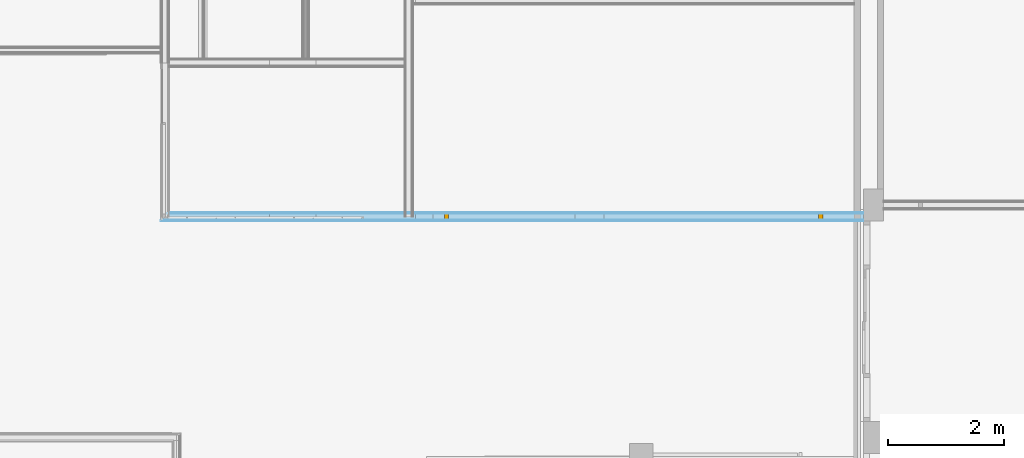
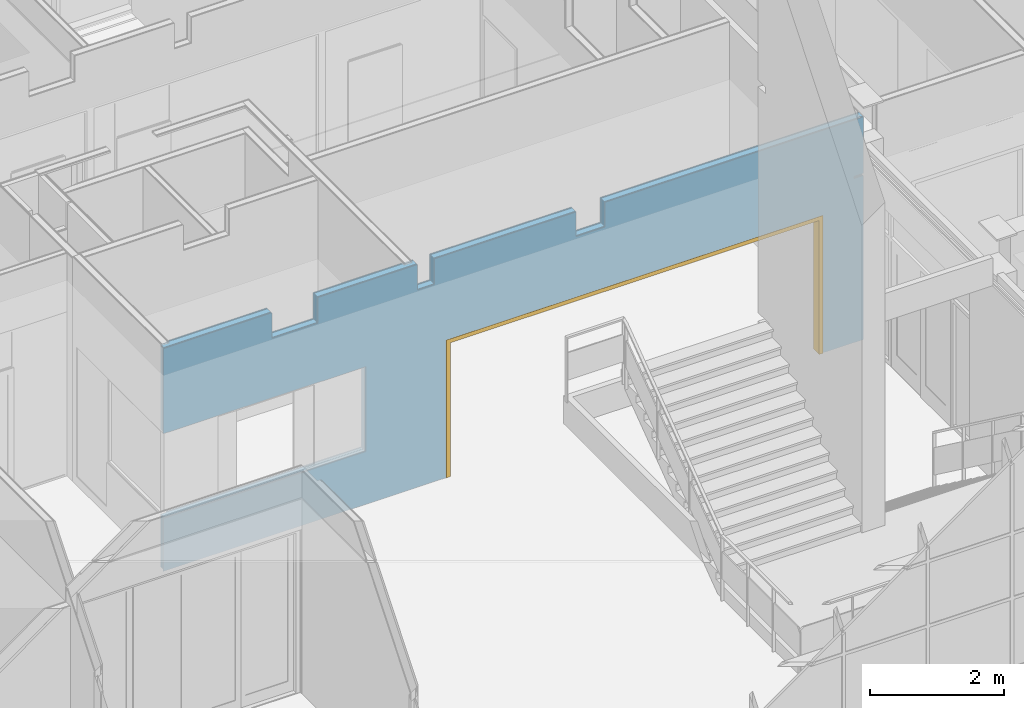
# One storey, part 34 of 109: 1 door, 2 openings, 1 element without a shape of its own, plus 5 elements that do not belong to this part.
"""IFC2X3 building model written with IfcOpenShell, lengths in millimetres."""

from ifc_helpers import new_model, entity, si_unit, converted_unit, derived_unit, money_unit, direction, frame, origin_with_axes, place, context, subcontext, project, spatial, faceted_brep, material, type_object, element, fill, aggregate, save


model = new_model("IFC2X3")

# Units and contexts
model_context = context("Model", 3, precision=0.01, world=origin_with_axes(), true_north=direction((0.0, 1.0)))
body_context = subcontext(model_context, "Body", "Model", "MODEL_VIEW")
ifc_project = project(units=[si_unit("LENGTHUNIT", "METRE", prefix="MILLI"), si_unit("AREAUNIT", "SQUARE_METRE"), si_unit("VOLUMEUNIT", "CUBIC_METRE"), converted_unit("PLANEANGLEUNIT", "DEGREE", entity("IfcPlaneAngleMeasure", 0.0174532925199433), si_unit("PLANEANGLEUNIT", "RADIAN"), dimensions=[0, 0, 0, 0, 0, 0, 0]), money_unit("EUR"), converted_unit("TIMEUNIT", "Year", entity("IfcTimeMeasure", 31557600.0), si_unit("TIMEUNIT", "SECOND"), dimensions=[0, 0, 1, 0, 0, 0, 0]), si_unit("MASSUNIT", "GRAM", prefix="KILO"), si_unit("THERMODYNAMICTEMPERATUREUNIT", "DEGREE_CELSIUS"), si_unit("LUMINOUSINTENSITYUNIT", "LUMEN"), si_unit("ENERGYUNIT", "JOULE", prefix="MEGA"), derived_unit("THERMALCONDUCTANCEUNIT", [(si_unit("POWERUNIT", "WATT"), 1), (si_unit("LENGTHUNIT", "METRE"), -1), (si_unit("THERMODYNAMICTEMPERATUREUNIT", "KELVIN"), -1)]), derived_unit("SPECIFICHEATCAPACITYUNIT", [(si_unit("ENERGYUNIT", "JOULE"), 1), (si_unit("MASSUNIT", "GRAM", prefix="KILO"), -1), (si_unit("THERMODYNAMICTEMPERATUREUNIT", "KELVIN"), -1)]), derived_unit("MASSDENSITYUNIT", [(si_unit("MASSUNIT", "GRAM", prefix="KILO"), 1), (si_unit("VOLUMEUNIT", "CUBIC_METRE"), -1)])], contexts=[model_context])

# Site, building, storey
site_placement = place(None, origin_with_axes())
site = spatial("IfcSite", under=ifc_project, at=site_placement, Name="<site naam>", CompositionType="ELEMENT")
building_placement = place(site_placement, origin_with_axes())
building = spatial("IfcBuilding", under=site, at=building_placement, Name="<Naam gebouw>", CompositionType="ELEMENT")
storey_placement = place(building_placement, origin_with_axes())
storey = spatial("IfcBuildingStorey", under=building, at=storey_placement, Name="00 Begane grond", CompositionType="ELEMENT", Elevation=0.0)

# Door
door_style = type_object("IfcDoorStyle", Name="D1 27", ConstructionType="NOTDEFINED", OperationType="NOTDEFINED", ParameterTakesPrecedence=False, Sizeable=False)
wall_placement = place(storey_placement, frame((-199.9999999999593, 11800.00000000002, 0.0), z_axis=(0.0, 0.0, 1.0), x_axis=(1.0, 0.0, 0.0)))
opening_2_placement = place(wall_placement, frame((8070.000000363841, 0.0, 0.0), z_axis=(0.0, 0.0, 1.0), x_axis=(1.0, 0.0, 0.0)))
door_placement = place(opening_2_placement, frame((-3257.0, 0.0, 0.0), z_axis=(0.0, 0.0, 1.0), x_axis=(1.0, 0.0, 0.0)))
door = element("IfcDoor", 1, at=door_placement, inside=storey, type_object=door_style, Name="22_BI-H-01_305", ObjectType="DOOR", OverallHeight=2517.0, OverallWidth=6514.0, context=body_context, shape_type="Brep", body=[
    faceted_brep([(6514.000000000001, 80.00000000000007, 0.0), (6514.000000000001, -80.00000000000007, 0.0), (6444.000000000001, -80.00000000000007, 0.0), (6444.000000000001, 80.00000000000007, 0.0), (6514.000000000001, 80.00000000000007, 2447.0), (6514.000000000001, -80.00000000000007, 2447.0), (6444.000000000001, -80.00000000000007, 2447.0), (6444.000000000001, 80.00000000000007, 2447.0)], [[[0, 1, 2, 3]], [[4, 5, 1, 0]], [[1, 5, 6, 2]], [[3, 2, 6, 7]], [[0, 3, 7, 4]], [[7, 6, 5, 4]]]),
    faceted_brep([(0.0, 80.00000000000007, 0.0), (0.0, -80.00000000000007, 0.0), (0.0, -80.00000000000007, 2447.0), (0.0, 80.00000000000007, 2447.0), (70.00000000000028, 80.00000000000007, 0.0), (70.00000000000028, -80.00000000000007, 0.0), (70.00000000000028, -80.00000000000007, 2447.0), (70.00000000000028, 80.00000000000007, 2447.0)], [[[0, 1, 2, 3]], [[4, 5, 1, 0]], [[1, 5, 6, 2]], [[3, 2, 6, 7]], [[0, 3, 7, 4]], [[7, 6, 5, 4]]]),
    faceted_brep([(6514.000000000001, 80.00000000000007, 2517.0), (6514.000000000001, -80.00000000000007, 2517.0), (6514.000000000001, -80.00000000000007, 2447.0), (6514.000000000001, 80.00000000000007, 2447.0), (0.0, 80.00000000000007, 2517.0), (0.0, -80.00000000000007, 2517.0), (0.0, -80.00000000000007, 2447.0), (70.00000000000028, -80.00000000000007, 2447.0), (6444.000000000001, -80.00000000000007, 2447.0), (6444.000000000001, 80.00000000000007, 2447.0), (70.00000000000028, 80.00000000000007, 2447.0), (0.0, 80.00000000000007, 2447.0)], [[[0, 1, 2, 3]], [[4, 5, 1, 0]], [[1, 5, 6, 7, 8, 2]], [[3, 2, 8, 9]], [[0, 3, 9, 10, 11, 4]], [[11, 6, 5, 4]], [[10, 7, 6, 11]], [[9, 8, 7, 10]]]),
])

# Wall, openings
wall_type = type_object("IfcWallType", Name="MS-01 GF 150 ECO DGS/2.100.2.A 150", PredefinedType="NOTDEFINED")
wall = element("IfcWall", 2, at=wall_placement, inside=storey, type_object=wall_type, Name="22_Binnenwand_MS-01")
opening_1_placement = place(wall_placement, frame((1717.194233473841, 0.0, 965.0), z_axis=(0.0, 0.0, 1.0), x_axis=(1.0, 0.0, 0.0)))
element("IfcOpeningElement", 3, at=opening_1_placement, cuts=wall, Name="22__305", context=body_context, shape_type="Brep", body=[
    faceted_brep([(1708.194233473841, -54.99999999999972, 0.0), (1708.194233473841, -54.99999999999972, 1552.0), (1708.194233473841, -75.99999999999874, 1552.0), (1708.194233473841, -75.99999999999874, 0.0), (1708.194233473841, 75.99999999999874, 0.0), (1708.194233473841, 75.99999999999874, 1552.0), (-1772.194233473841, -54.99999999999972, 1552.0), (-1792.194233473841, -74.99999999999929, 1552.0), (-1792.194233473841, -75.99999999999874, 1552.0), (-1792.194233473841, -75.99999999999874, 0.0), (-1772.194233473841, -54.99999999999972, 0.0), (-1792.194233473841, -74.99999999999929, 0.0), (-1641.194233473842, 75.99999999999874, 0.0), (-1641.194233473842, 75.99999999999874, 1552.0)], [[[0, 1, 2, 3]], [[1, 0, 4, 5]], [[1, 6, 7, 8, 2]], [[8, 9, 3, 2]], [[10, 0, 3, 9, 11]], [[0, 10, 12, 4]], [[5, 4, 12, 13]], [[6, 1, 5, 13]], [[7, 6, 13, 12, 10, 11]], [[11, 9, 8, 7]]]),
])
opening_2 = element("IfcOpeningElement", 4, at=opening_2_placement, cuts=wall, Name="22_BI-H-01_305", context=body_context, shape_type="Brep", body=[
    faceted_brep([(3257.0, 76.00000000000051, 2517.0), (3257.0, 75.99999999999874, 0.0), (-3257.0, 75.99999999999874, 0.0), (-3257.0, 76.00000000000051, 2517.0), (3257.0, -76.00000000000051, 2517.0), (3257.0, -76.00000000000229, 0.0), (-3257.0, -76.00000000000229, 0.0), (-3257.0, -76.00000000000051, 2517.0)], [[[0, 1, 2, 3]], [[4, 5, 1, 0]], [[5, 6, 2, 1]], [[6, 7, 3, 2]], [[7, 4, 0, 3]], [[6, 5, 4, 7]]]),
])

fill(opening_2, door)

# Building element part
ifc_material_1 = material(Name="gipsplaat")
building_element_part_1_placement = place(wall_placement, origin_with_axes())
building_element_part_1 = element("IfcBuildingElementPart", 5, at=building_element_part_1_placement, material=ifc_material_1, Name="gipsplaat", context=body_context, shape_type="Brep", body=[
    faceted_brep([(7062.499999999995, 75.00000000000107, 4070.0), (7062.499999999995, 74.99999999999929, 3620.0), (7562.499999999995, 74.99999999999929, 3620.0), (7562.499999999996, 75.00000000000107, 4070.0), (12026.79100128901, 75.00000000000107, 4070.0), (12026.79100128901, 75.00000000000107, 3040.0), (11864.99999999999, 75.00000000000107, 3040.0), (11864.99999999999, 75.00000000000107, 3000.0), (12026.79100128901, 75.00000000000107, 3000.0), (12026.79100128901, 75.00000000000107, 0.0), (11864.99987615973, 75.00000000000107, 0.0), (11864.99987615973, 75.00000000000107, 3.000000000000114), (4275.000231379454, 75.00000000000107, 3.000000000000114), (4275.000231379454, 74.99999999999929, 0.0), (62.49999999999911, 74.99999999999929, 0.0), (62.49999999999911, 74.99999999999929, 964.9999999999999), (75.00000162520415, 75.00000162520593, 964.9999999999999), (75.00000162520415, 75.00000162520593, 2517.0), (62.49999999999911, 75.00000000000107, 2517.0), (62.49999999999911, 75.00000000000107, 4070.0), (1799.999999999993, 75.00000000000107, 4070.0), (1799.999999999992, 75.00000000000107, 3600.0), (2599.999999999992, 75.00000000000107, 3600.0), (2599.999999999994, 75.00000000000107, 4070.0), (4314.999999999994, 75.00000000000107, 4070.0), (4314.999999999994, 75.00000000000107, 3600.0), (4614.999999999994, 75.00000000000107, 3600.0), (4614.999999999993, 75.00000000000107, 4070.0), (7062.499999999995, 62.5, 3620.0), (7062.499999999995, 62.50000000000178, 4070.0), (7562.499999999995, 62.5, 3620.0), (7562.499999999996, 62.5, 4070.0), (12026.79100128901, 62.50000000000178, 4070.0), (12026.79100128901, 62.50000000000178, 3040.0), (11864.99999999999, 62.5, 3040.0), (11864.99999999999, 62.5, 3000.0), (12026.79100128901, 62.50000000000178, 3000.0), (12026.79100128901, 62.5, 0.0), (11864.99987615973, 62.5, 0.0), (11864.99987615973, 62.5, 3.000000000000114), (4275.000231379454, 62.5, 3.000000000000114), (4275.000231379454, 62.5, 0.0), (62.49999999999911, 62.5, 0.0), (62.49999999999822, 62.5, 964.9999999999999), (62.49999999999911, 62.5, 2517.0), (62.49999999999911, 62.5, 4070.0), (1799.999999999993, 62.5, 4070.0), (1799.999999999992, 62.49999999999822, 3600.0), (2599.999999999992, 62.49999999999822, 3600.0), (2599.999999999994, 62.5, 4070.0), (4314.999999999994, 62.5, 4070.0), (4314.999999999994, 62.5, 3600.0), (4614.999999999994, 62.5, 3600.0), (4614.999999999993, 62.5, 4070.0)], [[[0, 1, 2, 3, 4, 5, 6, 7, 8, 9, 10, 11, 12, 13, 14, 15, 16, 17, 18, 19, 20, 21, 22, 23, 24, 25, 26, 27]], [[28, 1, 0, 29]], [[30, 2, 1, 28]], [[30, 31, 3, 2]], [[4, 3, 31, 32]], [[33, 5, 4, 32]], [[6, 5, 33, 34]], [[7, 6, 34, 35]], [[36, 8, 7, 35]], [[8, 36, 37, 9]], [[38, 10, 9, 37]], [[11, 10, 38, 39]], [[12, 11, 39, 40]], [[13, 12, 40, 41]], [[13, 41, 42, 14]], [[14, 42, 43, 15]], [[15, 43, 16]], [[17, 16, 43, 44]], [[17, 44, 18]], [[45, 19, 18, 44]], [[20, 19, 45, 46]], [[20, 46, 47, 21]], [[21, 47, 48, 22]], [[23, 22, 48, 49]], [[24, 23, 49, 50]], [[24, 50, 51, 25]], [[25, 51, 52, 26]], [[27, 26, 52, 53]], [[53, 29, 0, 27]], [[30, 28, 29, 53, 52, 51, 50, 49, 48, 47, 46, 45, 44, 43, 42, 41, 40, 39, 38, 37, 36, 35, 34, 33, 32, 31]]]),
])

building_element_part_2_placement = place(wall_placement, origin_with_axes())
building_element_part_2 = element("IfcBuildingElementPart", 6, at=building_element_part_2_placement, material=ifc_material_1, Name="gipsplaat", context=body_context, shape_type="Brep", body=[
    faceted_brep([(7062.499999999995, -49.99999999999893, 4070.0), (7062.499999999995, -49.99999999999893, 3620.0), (7562.499999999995, -49.99999999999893, 3620.0), (7562.499999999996, -49.99999999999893, 4070.0), (12026.79100128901, -49.99999999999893, 4070.0), (12026.79100128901, -49.99999999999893, 3040.0), (11864.99999999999, -49.99999999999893, 3040.0), (11864.99999999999, -49.99999999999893, 3000.0), (12026.79100128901, -49.99999999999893, 3000.0), (12026.79100128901, -49.99999999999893, 0.0), (11864.99987615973, -49.99999999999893, 0.0), (11864.99987615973, -49.99999999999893, 3.000000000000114), (4275.000231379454, -49.99999999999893, 3.000000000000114), (4275.000231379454, -50.00000000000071, 0.0), (-62.50000000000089, -50.00000000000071, 0.0), (-62.50000000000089, -50.00000000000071, 964.9999999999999), (-54.99999999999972, -49.99999999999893, 964.9999999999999), (-50.0000000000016, -49.99999999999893, 964.9999999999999), (-50.00000000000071, -49.99999999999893, 2517.0), (-54.99999999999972, -49.99999999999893, 2517.0), (-62.50000000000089, -49.99999999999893, 2517.0), (-62.50000000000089, -49.99999999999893, 4070.0), (1799.999999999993, -49.99999999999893, 4070.0), (1799.999999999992, -49.99999999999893, 3600.0), (2599.999999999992, -49.99999999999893, 3600.0), (2599.999999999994, -49.99999999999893, 4070.0), (4314.999999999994, -49.99999999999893, 4070.0), (4314.999999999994, -49.99999999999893, 3600.0), (4614.999999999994, -49.99999999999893, 3600.0), (4614.999999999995, -49.99999999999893, 4070.0), (7062.499999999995, -62.5, 3620.0), (7062.499999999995, -62.49999999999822, 4070.0), (7562.499999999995, -62.5, 3620.0), (7562.499999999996, -62.5, 4070.0), (12026.79100128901, -62.49999999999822, 4070.0), (12026.79100128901, -62.49999999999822, 3040.0), (11864.99999999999, -62.5, 3040.0), (11864.99999999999, -62.5, 3000.0), (12026.79100128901, -62.49999999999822, 3000.0), (12026.79100128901, -62.5, 0.0), (11864.99987615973, -62.5, 0.0), (11864.99987615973, -62.5, 3.000000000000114), (4275.000231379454, -62.5, 3.000000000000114), (4275.000231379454, -62.5, 0.0), (-62.50000000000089, -62.5, 0.0), (-62.50000000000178, -62.5, 964.9999999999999), (-54.99999999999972, -54.99999999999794, 964.9999999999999), (-62.50000000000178, -62.5, 2517.0), (-54.99999999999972, -54.99999999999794, 2517.0), (-62.50000000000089, -62.5, 4070.0), (1799.999999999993, -62.5, 4070.0), (1799.999999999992, -62.5, 3600.0), (2599.999999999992, -62.5, 3600.0), (2599.999999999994, -62.5, 4070.0), (4314.999999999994, -62.5, 4070.0), (4314.999999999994, -62.5, 3600.0), (4614.999999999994, -62.5, 3600.0), (4614.999999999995, -62.5, 4070.0)], [[[0, 1, 2, 3, 4, 5, 6, 7, 8, 9, 10, 11, 12, 13, 14, 15, 16, 17, 18, 19, 20, 21, 22, 23, 24, 25, 26, 27, 28, 29]], [[30, 1, 0, 31]], [[32, 2, 1, 30]], [[32, 33, 3, 2]], [[4, 3, 33, 34]], [[35, 5, 4, 34]], [[6, 5, 35, 36]], [[7, 6, 36, 37]], [[38, 8, 7, 37]], [[8, 38, 39, 9]], [[40, 10, 9, 39]], [[11, 10, 40, 41]], [[12, 11, 41, 42]], [[13, 12, 42, 43]], [[13, 43, 44, 14]], [[14, 44, 45, 15]], [[45, 46, 16, 15]], [[16, 46, 17]], [[47, 48, 18, 17, 46, 45]], [[18, 48, 19]], [[48, 47, 20, 19]], [[49, 21, 20, 47]], [[22, 21, 49, 50]], [[22, 50, 51, 23]], [[23, 51, 52, 24]], [[25, 24, 52, 53]], [[26, 25, 53, 54]], [[26, 54, 55, 27]], [[27, 55, 56, 28]], [[29, 28, 56, 57]], [[57, 31, 0, 29]], [[32, 30, 31, 57, 56, 55, 54, 53, 52, 51, 50, 49, 47, 45, 44, 43, 42, 41, 40, 39, 38, 37, 36, 35, 34, 33]]]),
])

ifc_material_2 = material(Name="isolatie_steenwol LSW")
building_element_part_3_placement = place(wall_placement, origin_with_axes())
building_element_part_3 = element("IfcBuildingElementPart", 7, at=building_element_part_3_placement, material=ifc_material_2, Name="isolatie_steenwol LSW", context=body_context, shape_type="Brep", body=[
    faceted_brep([(7062.499999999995, 50.00000000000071, 4070.0), (7062.499999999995, 50.00000000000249, 3620.0), (7562.499999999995, 50.00000000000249, 3620.0), (7562.499999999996, 50.00000000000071, 4070.0), (12026.79100128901, 50.00000000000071, 4070.0), (12026.79100128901, 50.00000000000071, 3040.0), (11864.99999999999, 50.00000000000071, 3040.0), (11864.99999999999, 50.00000000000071, 3000.0), (12026.79100128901, 50.00000000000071, 3000.0), (12026.79100128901, 50.00000000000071, 0.0), (11864.99987615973, 50.00000000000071, 0.0), (11864.99987615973, 50.00000000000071, 3.000000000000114), (4275.000231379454, 49.99999999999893, 3.000000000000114), (4275.000231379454, 50.00000000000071, 0.0), (-50.0000000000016, 50.00000000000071, 0.0), (-50.0000000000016, 50.00000000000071, 964.9999999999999), (49.99999999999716, 49.99999999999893, 964.9999999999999), (49.99999999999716, 49.99999999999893, 2517.0), (-50.0000000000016, 50.00000000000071, 2517.0), (-50.0000000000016, 50.00000000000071, 4070.0), (1799.999999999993, 50.00000000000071, 4070.0), (1799.999999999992, 49.99999999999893, 3600.0), (2599.999999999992, 49.99999999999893, 3600.0), (2599.999999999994, 50.00000000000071, 4070.0), (4314.999999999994, 50.00000000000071, 4070.0), (4314.999999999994, 49.99999999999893, 3600.0), (4614.999999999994, 49.99999999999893, 3600.0), (4614.999999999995, 50.00000000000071, 4070.0), (7062.499999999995, -49.99999999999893, 3620.0), (7062.499999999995, -49.99999999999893, 4070.0), (7562.499999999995, -49.99999999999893, 3620.0), (7562.499999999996, -49.99999999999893, 4070.0), (12026.79100128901, -49.99999999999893, 4070.0), (12026.79100128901, -49.99999999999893, 3040.0), (11864.99999999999, -49.99999999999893, 3040.0), (11864.99999999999, -49.99999999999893, 3000.0), (12026.79100128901, -49.99999999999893, 3000.0), (12026.79100128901, -49.99999999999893, 0.0), (11864.99987615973, -49.99999999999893, 0.0), (11864.99987615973, -49.99999999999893, 3.000000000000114), (4275.000231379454, -49.99999999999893, 3.000000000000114), (4275.000231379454, -50.00000000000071, 0.0), (-50.0000000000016, -50.00000000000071, 0.0), (-50.0000000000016, -50.00000000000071, 964.9999999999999), (-50.0000000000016, -49.99999999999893, 2517.0), (-50.0000000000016, -49.99999999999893, 4070.0), (1799.999999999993, -49.99999999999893, 4070.0), (1799.999999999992, -49.99999999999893, 3600.0), (2599.999999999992, -49.99999999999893, 3600.0), (2599.999999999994, -49.99999999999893, 4070.0), (4314.999999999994, -49.99999999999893, 4070.0), (4314.999999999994, -49.99999999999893, 3600.0), (4614.999999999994, -49.99999999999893, 3600.0), (4614.999999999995, -49.99999999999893, 4070.0)], [[[0, 1, 2, 3, 4, 5, 6, 7, 8, 9, 10, 11, 12, 13, 14, 15, 16, 17, 18, 19, 20, 21, 22, 23, 24, 25, 26, 27]], [[28, 1, 0, 29]], [[30, 2, 1, 28]], [[30, 31, 3, 2]], [[4, 3, 31, 32]], [[33, 5, 4, 32]], [[6, 5, 33, 34]], [[7, 6, 34, 35]], [[36, 8, 7, 35]], [[8, 36, 37, 9]], [[38, 10, 9, 37]], [[11, 10, 38, 39]], [[12, 11, 39, 40]], [[13, 12, 40, 41]], [[13, 41, 42, 14]], [[14, 42, 43, 15]], [[15, 43, 16]], [[43, 44, 17, 16]], [[17, 44, 18]], [[45, 19, 18, 44]], [[20, 19, 45, 46]], [[20, 46, 47, 21]], [[21, 47, 48, 22]], [[23, 22, 48, 49]], [[24, 23, 49, 50]], [[24, 50, 51, 25]], [[25, 51, 52, 26]], [[27, 26, 52, 53]], [[53, 29, 0, 27]], [[30, 28, 29, 53, 52, 51, 50, 49, 48, 47, 46, 45, 44, 43, 42, 41, 40, 39, 38, 37, 36, 35, 34, 33, 32, 31]]]),
])

building_element_part_4_placement = place(wall_placement, origin_with_axes())
building_element_part_4 = element("IfcBuildingElementPart", 8, at=building_element_part_4_placement, material=ifc_material_1, Name="gipsplaat", context=body_context, shape_type="Brep", body=[
    faceted_brep([(7062.499999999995, -62.5, 4070.0), (7062.499999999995, -62.5, 3620.0), (7562.499999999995, -62.5, 3620.0), (7562.499999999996, -62.5, 4070.0), (12026.79100128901, -62.49999999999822, 4070.0), (12026.79100128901, -62.49999999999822, 3040.0), (11864.99999999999, -62.49999999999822, 3040.0), (11864.99999999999, -62.49999999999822, 3000.0), (12026.79100128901, -62.49999999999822, 3000.0), (12026.79100128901, -62.5, 0.0), (11864.99987615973, -62.5, 0.0), (11864.99987615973, -62.49999999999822, 3.000000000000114), (4275.000231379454, -62.49999999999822, 3.000000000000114), (4275.000231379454, -62.5, 0.0), (-75.00000000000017, -62.5, 0.0), (-75.00000000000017, -62.5, 964.9999999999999), (-62.50000000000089, -62.49999999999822, 964.9999999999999), (-62.50000000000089, -62.49999999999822, 2517.0), (-75.00000000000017, -62.5, 2517.0), (-75.00000000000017, -62.5, 4070.0), (1799.999999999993, -62.5, 4070.0), (1799.999999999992, -62.49999999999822, 3600.0), (2599.999999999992, -62.49999999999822, 3600.0), (2599.999999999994, -62.5, 4070.0), (4314.999999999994, -62.5, 4070.0), (4314.999999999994, -62.49999999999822, 3600.0), (4614.999999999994, -62.49999999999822, 3600.0), (4614.999999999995, -62.5, 4070.0), (7062.499999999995, -74.99999999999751, 3620.0), (7062.499999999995, -74.99999999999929, 4070.0), (7562.499999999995, -74.99999999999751, 3620.0), (7562.499999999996, -74.99999999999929, 4070.0), (12026.79100128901, -74.99999999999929, 4070.0), (12026.79100128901, -74.99999999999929, 3040.0), (11864.99999999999, -74.99999999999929, 3040.0), (11864.99999999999, -74.99999999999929, 3000.0), (12026.79100128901, -74.99999999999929, 3000.0), (12026.79100128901, -74.99999999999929, 0.0), (11864.99987615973, -74.99994814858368, 0.0), (11864.99987615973, -74.99994814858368, 3.000000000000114), (4275.000231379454, -74.99994814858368, 3.000000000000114), (4275.000231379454, -74.99994814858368, 0.0), (-75.00000000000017, -74.99999999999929, 0.0), (-75.00000000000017, -74.99999999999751, 964.9999999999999), (-75.00000000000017, -74.99999999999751, 2517.0), (-75.00000000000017, -74.99999999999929, 4070.0), (1799.999999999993, -74.99999999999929, 4070.0), (1799.999999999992, -74.99994814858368, 3600.0), (2599.999999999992, -74.99994814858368, 3600.0), (2599.999999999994, -74.99999999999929, 4070.0), (4314.999999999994, -74.99999999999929, 4070.0), (4314.999999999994, -74.99994814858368, 3600.0), (4614.999999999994, -74.99994814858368, 3600.0), (4614.999999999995, -74.99999999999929, 4070.0)], [[[0, 1, 2, 3, 4, 5, 6, 7, 8, 9, 10, 11, 12, 13, 14, 15, 16, 17, 18, 19, 20, 21, 22, 23, 24, 25, 26, 27]], [[28, 1, 0, 29]], [[30, 2, 1, 28]], [[30, 31, 3, 2]], [[4, 3, 31, 32]], [[33, 5, 4, 32]], [[6, 5, 33, 34]], [[7, 6, 34, 35]], [[36, 8, 7, 35]], [[8, 36, 37, 9]], [[38, 10, 9, 37]], [[11, 10, 38, 39]], [[12, 11, 39, 40]], [[13, 12, 40, 41]], [[13, 41, 42, 14]], [[14, 42, 43, 15]], [[15, 43, 16]], [[43, 44, 17, 16]], [[17, 44, 18]], [[45, 19, 18, 44]], [[20, 19, 45, 46]], [[20, 46, 47, 21]], [[21, 47, 48, 22]], [[23, 22, 48, 49]], [[24, 23, 49, 50]], [[24, 50, 51, 25]], [[25, 51, 52, 26]], [[27, 26, 52, 53]], [[53, 29, 0, 27]], [[30, 28, 29, 53, 52, 51, 50, 49, 48, 47, 46, 45, 44, 43, 42, 41, 40, 39, 38, 37, 36, 35, 34, 33, 32, 31]]]),
])

building_element_part_5_placement = place(wall_placement, origin_with_axes())
building_element_part_5 = element("IfcBuildingElementPart", 9, at=building_element_part_5_placement, material=ifc_material_1, Name="gipsplaat", context=body_context, shape_type="Brep", body=[
    faceted_brep([(7062.499999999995, 62.5, 4070.0), (7062.499999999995, 62.5, 3620.0), (7562.499999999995, 62.5, 3620.0), (7562.499999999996, 62.5, 4070.0), (12026.79100128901, 62.50000000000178, 4070.0), (12026.79100128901, 62.50000000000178, 3040.0), (11864.99999999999, 62.50000000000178, 3040.0), (11864.99999999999, 62.50000000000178, 3000.0), (12026.79100128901, 62.50000000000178, 3000.0), (12026.79100128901, 62.5, 0.0), (11864.99987615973, 62.50000000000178, 0.0), (11864.99987615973, 62.50000000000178, 3.000000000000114), (4275.000231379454, 62.50000000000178, 3.000000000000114), (4275.000231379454, 62.5, 0.0), (49.99999999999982, 62.5, 0.0), (49.99999999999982, 62.5, 964.9999999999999), (62.49999999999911, 62.50000000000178, 964.9999999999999), (62.5, 62.50000000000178, 2517.0), (49.99999999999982, 62.5, 2517.0), (49.99999999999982, 62.5, 4070.0), (1799.999999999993, 62.5, 4070.0), (1799.999999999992, 62.50000000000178, 3600.0), (2599.999999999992, 62.50000000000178, 3600.0), (2599.999999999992, 62.5, 4070.0), (4314.999999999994, 62.5, 4070.0), (4314.999999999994, 62.50000000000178, 3600.0), (4614.999999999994, 62.50000000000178, 3600.0), (4614.999999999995, 62.5, 4070.0), (7062.499999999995, 50.00000000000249, 3620.0), (7062.499999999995, 50.00000000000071, 4070.0), (7562.499999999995, 50.00000000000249, 3620.0), (7562.499999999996, 50.00000000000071, 4070.0), (12026.79100128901, 50.00000000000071, 4070.0), (12026.79100128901, 50.00000000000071, 3040.0), (11864.99999999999, 50.00000000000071, 3040.0), (11864.99999999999, 50.00000000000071, 3000.0), (12026.79100128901, 50.00000000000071, 3000.0), (12026.79100128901, 50.00000000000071, 0.0), (11864.99987615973, 50.00000000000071, 0.0), (11864.99987615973, 50.00000000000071, 3.000000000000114), (4275.000231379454, 50.00000000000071, 3.000000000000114), (4275.000231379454, 50.00000000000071, 0.0), (49.99999999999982, 50.00000000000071, 0.0), (49.99999999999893, 50.00000000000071, 964.9999999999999), (49.99999999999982, 50.00000000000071, 2517.0), (49.99999999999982, 50.00000000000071, 4070.0), (1799.999999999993, 50.00000000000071, 4070.0), (1799.999999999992, 50.00000000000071, 3600.0), (2599.999999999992, 50.00000000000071, 3600.0), (2599.999999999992, 50.00000000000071, 4070.0), (4314.999999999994, 50.00000000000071, 4070.0), (4314.999999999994, 50.00000000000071, 3600.0), (4614.999999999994, 50.00000000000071, 3600.0), (4614.999999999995, 50.00000000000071, 4070.0)], [[[0, 1, 2, 3, 4, 5, 6, 7, 8, 9, 10, 11, 12, 13, 14, 15, 16, 17, 18, 19, 20, 21, 22, 23, 24, 25, 26, 27]], [[28, 1, 0, 29]], [[30, 2, 1, 28]], [[30, 31, 3, 2]], [[4, 3, 31, 32]], [[33, 5, 4, 32]], [[6, 5, 33, 34]], [[7, 6, 34, 35]], [[36, 8, 7, 35]], [[8, 36, 37, 9]], [[38, 10, 9, 37]], [[11, 10, 38, 39]], [[12, 11, 39, 40]], [[13, 12, 40, 41]], [[13, 41, 42, 14]], [[14, 42, 43, 15]], [[15, 43, 16]], [[43, 44, 17, 16]], [[17, 44, 18]], [[45, 19, 18, 44]], [[20, 19, 45, 46]], [[20, 46, 47, 21]], [[21, 47, 48, 22]], [[23, 22, 48, 49]], [[24, 23, 49, 50]], [[24, 50, 51, 25]], [[25, 51, 52, 26]], [[27, 26, 52, 53]], [[53, 29, 0, 27]], [[30, 28, 29, 53, 52, 51, 50, 49, 48, 47, 46, 45, 44, 43, 42, 41, 40, 39, 38, 37, 36, 35, 34, 33, 32, 31]]]),
])

aggregate(wall, [building_element_part_1, building_element_part_2, building_element_part_3, building_element_part_4, building_element_part_5])

save(model, "model.ifc")
